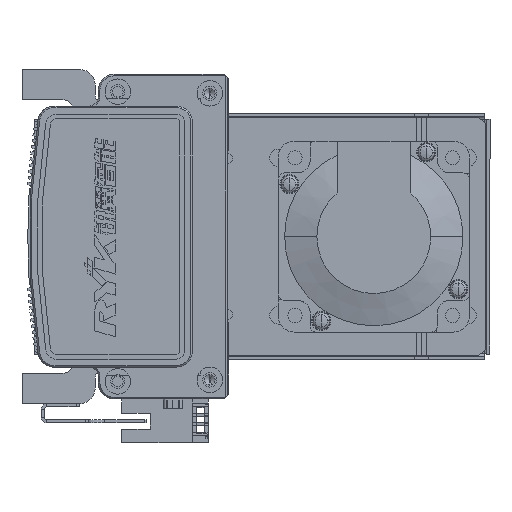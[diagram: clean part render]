
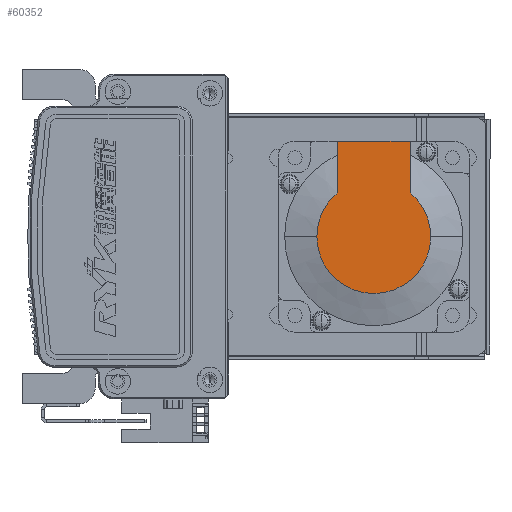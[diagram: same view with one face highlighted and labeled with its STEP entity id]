
A CAD part, left-side view. The second image highlights one B-rep face of the part: STEP entity #60352.
In plain terms, the highlighted planar face has unit normal (-1, 0, 0).
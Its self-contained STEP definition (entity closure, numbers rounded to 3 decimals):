
#21551 = VERTEX_POINT ( 'NONE', #83217 ) ;
#21595 = VERTEX_POINT ( 'NONE', #83345 ) ;
#21597 = VERTEX_POINT ( 'NONE', #83334 ) ;
#21720 = VERTEX_POINT ( 'NONE', #83607 ) ;
#21862 = VERTEX_POINT ( 'NONE', #83746 ) ;
#21914 = VERTEX_POINT ( 'NONE', #83661 ) ;
#29881 = PLANE ( 'NONE',  #74952 ) ;
#29896 = CARTESIAN_POINT ( 'NONE',  ( -99., -8.941, 0. ) ) ;
#29911 = DIRECTION ( 'NONE',  ( -1., 0., 0. ) ) ;
#29926 = DIRECTION ( 'NONE',  ( 0., 0., 1. ) ) ;
#30310 = FACE_OUTER_BOUND ( 'NONE', #69651, .T. ) ;
#33058 = EDGE_CURVE ( 'NONE', #21597, #21595, #80866, .T. ) ;
#33095 = EDGE_CURVE ( 'NONE', #21595, #21551, #41449, .T. ) ;
#33300 = EDGE_CURVE ( 'NONE', #21720, #21597, #42107, .T. ) ;
#33356 = EDGE_CURVE ( 'NONE', #21862, #21914, #42309, .T. ) ;
#33476 = EDGE_CURVE ( 'NONE', #21862, #21720, #42652, .T. ) ;
#33484 = EDGE_CURVE ( 'NONE', #21914, #21551, #42647, .T. ) ;
#38104 = DIRECTION ( 'NONE',  ( -1., 0., 0. ) ) ;
#38116 = DIRECTION ( 'NONE',  ( 0., 0., -1. ) ) ;
#38130 = CARTESIAN_POINT ( 'NONE',  ( -99., 0., 0. ) ) ;
#38202 = CARTESIAN_POINT ( 'NONE',  ( -99., 0., 0. ) ) ;
#38203 = DIRECTION ( 'NONE',  ( -1., 0., 0. ) ) ;
#38204 = DIRECTION ( 'NONE',  ( 0., 0., -1. ) ) ;
#41449 = CIRCLE ( 'NONE', #78794, 17.881 ) ;
#42107 = CIRCLE ( 'NONE', #78866, 17.881 ) ;
#42308 = VECTOR ( 'NONE', #44303, 1000. ) ;
#42309 = LINE ( 'NONE', #44294, #42308 ) ;
#42624 = VECTOR ( 'NONE', #44574, 1000. ) ;
#42633 = VECTOR ( 'NONE', #44576, 1000. ) ;
#42647 = LINE ( 'NONE', #44575, #42633 ) ;
#42652 = LINE ( 'NONE', #44578, #42624 ) ;
#44085 = DIRECTION ( 'NONE',  ( -1., 0., 0. ) ) ;
#44093 = CARTESIAN_POINT ( 'NONE',  ( -99., 0., 0. ) ) ;
#44096 = DIRECTION ( 'NONE',  ( 0., 0., -1. ) ) ;
#44294 = CARTESIAN_POINT ( 'NONE',  ( -99., 30., 25. ) ) ;
#44303 = DIRECTION ( 'NONE',  ( 0., 0., 1. ) ) ;
#44574 = DIRECTION ( 'NONE',  ( 0., -1., 0. ) ) ;
#44575 = CARTESIAN_POINT ( 'NONE',  ( -99., 0., 11.45 ) ) ;
#44576 = DIRECTION ( 'NONE',  ( 0., -1., 0. ) ) ;
#44578 = CARTESIAN_POINT ( 'NONE',  ( -99., -8.941, -11.45 ) ) ;
#60352 = ADVANCED_FACE ( 'NONE', ( #30310 ), #29881, .T. ) ;
#69651 = EDGE_LOOP ( 'NONE', ( #73681, #73723, #73686, #73731, #73722, #73695 ) ) ;
#73681 = ORIENTED_EDGE ( 'NONE', *, *, #33476, .T. ) ;
#73686 = ORIENTED_EDGE ( 'NONE', *, *, #33058, .T. ) ;
#73695 = ORIENTED_EDGE ( 'NONE', *, *, #33356, .F. ) ;
#73722 = ORIENTED_EDGE ( 'NONE', *, *, #33484, .F. ) ;
#73723 = ORIENTED_EDGE ( 'NONE', *, *, #33300, .T. ) ;
#73731 = ORIENTED_EDGE ( 'NONE', *, *, #33095, .T. ) ;
#74952 = AXIS2_PLACEMENT_3D ( 'NONE', #29896, #29911, #29926 ) ;
#78790 = AXIS2_PLACEMENT_3D ( 'NONE', #38130, #38104, #38116 ) ;
#78794 = AXIS2_PLACEMENT_3D ( 'NONE', #38202, #38203, #38204 ) ;
#78866 = AXIS2_PLACEMENT_3D ( 'NONE', #44093, #44085, #44096 ) ;
#80866 = CIRCLE ( 'NONE', #78790, 17.881 ) ;
#83217 = CARTESIAN_POINT ( 'NONE',  ( -99., 13.735, 11.45 ) ) ;
#83334 = CARTESIAN_POINT ( 'NONE',  ( -99., 0., -17.881 ) ) ;
#83345 = CARTESIAN_POINT ( 'NONE',  ( -99., 0., 17.881 ) ) ;
#83607 = CARTESIAN_POINT ( 'NONE',  ( -99., 13.735, -11.45 ) ) ;
#83661 = CARTESIAN_POINT ( 'NONE',  ( -99., 30., 11.45 ) ) ;
#83746 = CARTESIAN_POINT ( 'NONE',  ( -99., 30., -11.45 ) ) ;
